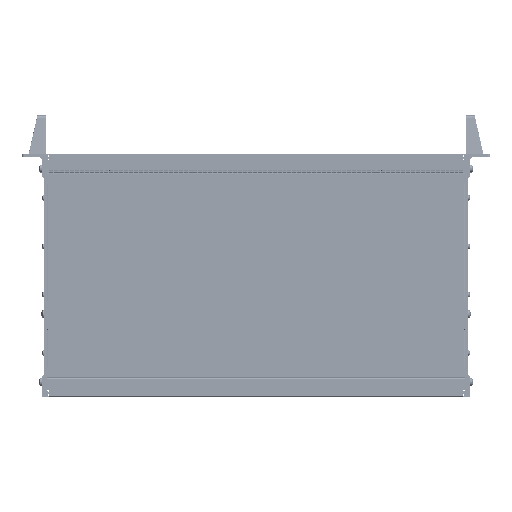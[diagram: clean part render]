
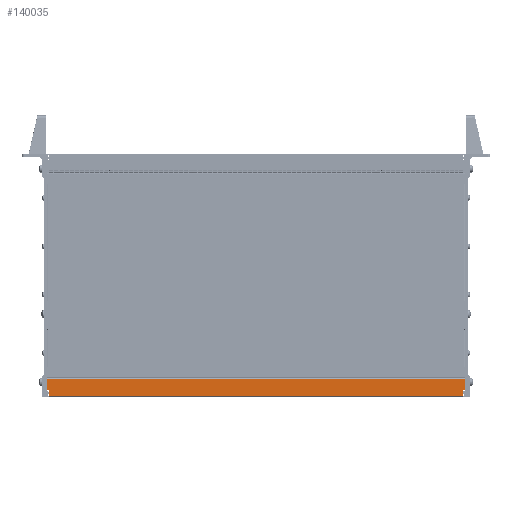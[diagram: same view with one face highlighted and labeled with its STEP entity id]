
A CAD part, front view. The second image highlights one B-rep face of the part: STEP entity #140035.
In plain terms, the highlighted planar face has unit normal (0, -1, 0) as drawn and (0, 1, 0) by its records, which use the part's own axes.
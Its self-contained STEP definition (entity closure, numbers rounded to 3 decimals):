
#1952 = LINE ( 'NONE', #192097, #50789 ) ;
#2368 = VERTEX_POINT ( 'NONE', #246784 ) ;
#4516 = LINE ( 'NONE', #67446, #227408 ) ;
#4625 = AXIS2_PLACEMENT_3D ( 'NONE', #138058, #86914, #125300 ) ;
#8279 = CARTESIAN_POINT ( 'NONE',  ( 215.9, 10.237, -21.845 ) ) ;
#8523 = EDGE_CURVE ( 'NONE', #44468, #204182, #130975, .T. ) ;
#12281 = ORIENTED_EDGE ( 'NONE', *, *, #101346, .F. ) ;
#13453 = CARTESIAN_POINT ( 'NONE',  ( -215.9, 10.237, -9.845 ) ) ;
#14399 = EDGE_CURVE ( 'NONE', #2368, #205872, #1952, .T. ) ;
#24968 = VECTOR ( 'NONE', #235220, 1000. ) ;
#38564 = CARTESIAN_POINT ( 'NONE',  ( -213.36, 10.237, -9.845 ) ) ;
#39626 = CARTESIAN_POINT ( 'NONE',  ( 213.36, 10.237, -3.645 ) ) ;
#44095 = CARTESIAN_POINT ( 'NONE',  ( 215.9, 10.237, -3.645 ) ) ;
#44468 = VERTEX_POINT ( 'NONE', #61591 ) ;
#44699 = LINE ( 'NONE', #13453, #215611 ) ;
#47947 = VERTEX_POINT ( 'NONE', #58096 ) ;
#50789 = VECTOR ( 'NONE', #73615, 1000. ) ;
#53496 = FACE_OUTER_BOUND ( 'NONE', #202903, .T. ) ;
#58096 = CARTESIAN_POINT ( 'NONE',  ( 215.9, 10.237, -21.845 ) ) ;
#61591 = CARTESIAN_POINT ( 'NONE',  ( 215.9, 10.237, -9.845 ) ) ;
#61819 = CARTESIAN_POINT ( 'NONE',  ( -215.9, 10.237, -9.845 ) ) ;
#67446 = CARTESIAN_POINT ( 'NONE',  ( 215.9, 10.237, -21.845 ) ) ;
#73615 = DIRECTION ( 'NONE',  ( 0., 0., -1. ) ) ;
#76318 = DIRECTION ( 'NONE',  ( 0., 0., 1. ) ) ;
#76348 = VECTOR ( 'NONE', #80141, 1000. ) ;
#80141 = DIRECTION ( 'NONE',  ( 0., 0., 1. ) ) ;
#86914 = DIRECTION ( 'NONE',  ( 0., -1., 0. ) ) ;
#87779 = CARTESIAN_POINT ( 'NONE',  ( -215.9, 10.237, -21.845 ) ) ;
#96820 = CARTESIAN_POINT ( 'NONE',  ( 215.9, 10.237, -9.845 ) ) ;
#97651 = LINE ( 'NONE', #212457, #76348 ) ;
#98734 = LINE ( 'NONE', #117201, #104795 ) ;
#101346 = EDGE_CURVE ( 'NONE', #178946, #2368, #156163, .T. ) ;
#103271 = DIRECTION ( 'NONE',  ( -1., 0., 0. ) ) ;
#104795 = VECTOR ( 'NONE', #76318, 1000. ) ;
#110408 = VERTEX_POINT ( 'NONE', #87779 ) ;
#117201 = CARTESIAN_POINT ( 'NONE',  ( -215.9, 10.237, -21.845 ) ) ;
#123622 = DIRECTION ( 'NONE',  ( 0., 0., 1. ) ) ;
#125300 = DIRECTION ( 'NONE',  ( 0., 0., -1. ) ) ;
#129963 = ORIENTED_EDGE ( 'NONE', *, *, #14399, .F. ) ;
#130975 = LINE ( 'NONE', #96820, #231816 ) ;
#138058 = CARTESIAN_POINT ( 'NONE',  ( 215.9, 10.237, -21.845 ) ) ;
#140035 = ADVANCED_FACE ( 'NONE', ( #53496 ), #196106, .F. ) ;
#145966 = EDGE_CURVE ( 'NONE', #204182, #178946, #97651, .T. ) ;
#153883 = ORIENTED_EDGE ( 'NONE', *, *, #235959, .F. ) ;
#156163 = LINE ( 'NONE', #44095, #24968 ) ;
#159128 = VERTEX_POINT ( 'NONE', #61819 ) ;
#163448 = CARTESIAN_POINT ( 'NONE',  ( 213.36, 10.237, -9.845 ) ) ;
#165490 = VECTOR ( 'NONE', #123622, 1000. ) ;
#178946 = VERTEX_POINT ( 'NONE', #39626 ) ;
#185274 = ORIENTED_EDGE ( 'NONE', *, *, #194360, .T. ) ;
#190647 = DIRECTION ( 'NONE',  ( -1., 0., 0. ) ) ;
#192097 = CARTESIAN_POINT ( 'NONE',  ( -213.36, 10.237, -9.845 ) ) ;
#194360 = EDGE_CURVE ( 'NONE', #47947, #110408, #4516, .T. ) ;
#196106 = PLANE ( 'NONE',  #4625 ) ;
#196274 = EDGE_CURVE ( 'NONE', #110408, #159128, #98734, .T. ) ;
#197090 = EDGE_CURVE ( 'NONE', #47947, #44468, #217430, .T. ) ;
#202903 = EDGE_LOOP ( 'NONE', ( #242810, #153883, #129963, #12281, #223856, #234751, #245290, #185274 ) ) ;
#204182 = VERTEX_POINT ( 'NONE', #163448 ) ;
#205872 = VERTEX_POINT ( 'NONE', #38564 ) ;
#212457 = CARTESIAN_POINT ( 'NONE',  ( 213.36, 10.237, -9.845 ) ) ;
#215611 = VECTOR ( 'NONE', #228489, 1000. ) ;
#217430 = LINE ( 'NONE', #8279, #165490 ) ;
#223856 = ORIENTED_EDGE ( 'NONE', *, *, #145966, .F. ) ;
#227408 = VECTOR ( 'NONE', #103271, 1000. ) ;
#228489 = DIRECTION ( 'NONE',  ( -1., 0., 0. ) ) ;
#231816 = VECTOR ( 'NONE', #190647, 1000. ) ;
#234751 = ORIENTED_EDGE ( 'NONE', *, *, #8523, .F. ) ;
#235220 = DIRECTION ( 'NONE',  ( -1., 0., 0. ) ) ;
#235959 = EDGE_CURVE ( 'NONE', #205872, #159128, #44699, .T. ) ;
#242810 = ORIENTED_EDGE ( 'NONE', *, *, #196274, .T. ) ;
#245290 = ORIENTED_EDGE ( 'NONE', *, *, #197090, .F. ) ;
#246784 = CARTESIAN_POINT ( 'NONE',  ( -213.36, 10.237, -3.645 ) ) ;
